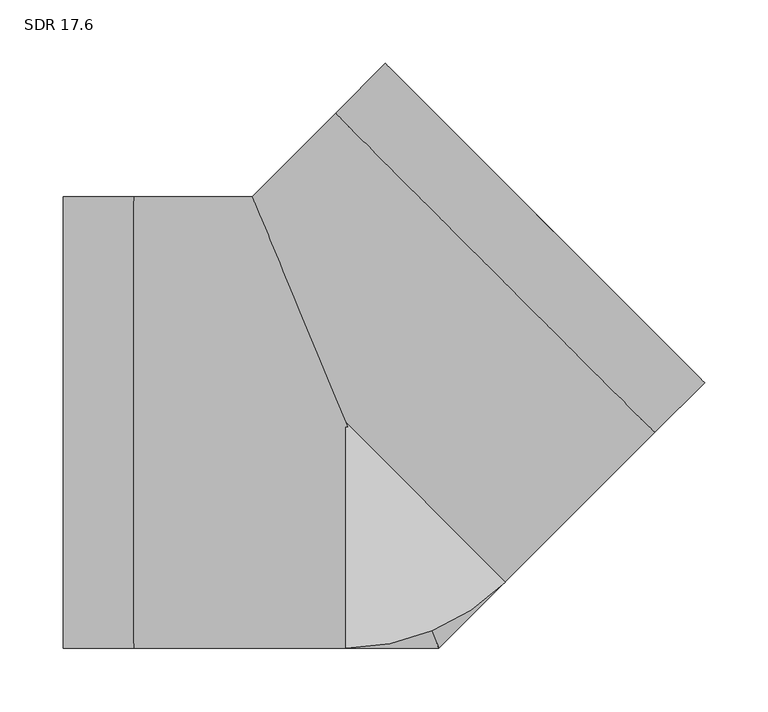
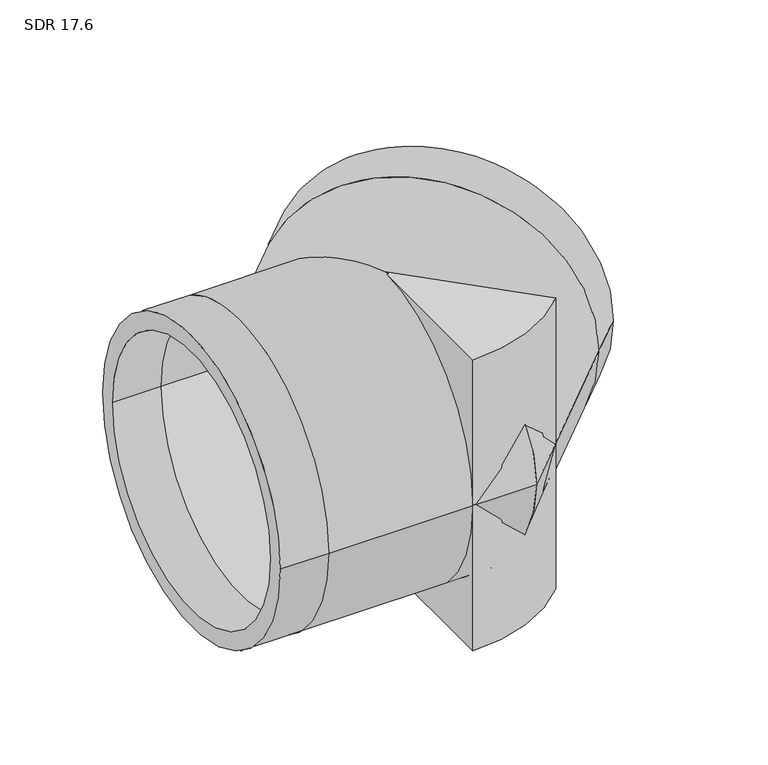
"""IFC4 building model written with IfcOpenShell, lengths in millimetres: pipe fitting geometry, Aquatherm - Elbow Blue BW Segmented : SDR 17.6."""

import ifcopenshell
import ifcopenshell.guid

model = None  # the IFC model being written
_history = None  # IfcOwnerHistory: only IFC2X3 demands one
_inside = {}  # id of a spatial element -> (the spatial element, [elements in it])
_under = {}  # id of a project, library or spatial element -> (it, [spatial elements below it])
_declared = {}  # id of a project -> (the project, [libraries it declares])
_typed = {}  # id of a type object -> (the type object, [elements of that type])
_made_of = {}  # id of a material, layer set ... -> (it, [elements and type objects made of it])


def new_model(schema):
    """Start an empty IFC model of exactly this schema.

    Asked for "IFC4X3", IfcOpenShell would pick the latest addendum, in which some entities
    have other attributes; the version numbers below select the first issue.
    IFC2X3 requires an IfcOwnerHistory on every rooted entity: one is made here for all.
    """
    global model, _history
    if schema == "IFC4X3":
        model = ifcopenshell.file(schema_version=(4, 3, 0, 0))
    else:
        model = ifcopenshell.file(schema=schema)
    _inside.clear()
    _under.clear()
    _declared.clear()
    _typed.clear()
    _made_of.clear()
    _history = None
    if model.schema == "IFC2X3":
        org = make("IfcOrganization", Name="unknown")
        user = make(
            "IfcPersonAndOrganization",
            ThePerson=make("IfcPerson", FamilyName="unknown"),
            TheOrganization=org,
        )
        app = make(
            "IfcApplication",
            ApplicationDeveloper=org,
            Version="unknown",
            ApplicationFullName="unknown",
            ApplicationIdentifier="unknown",
        )
        _history = make(
            "IfcOwnerHistory",
            OwningUser=user,
            OwningApplication=app,
            ChangeAction="ADDED",
            CreationDate=0,
        )
    return model


def make(cls, **values):
    """One entity of the class cls with the attributes given. An attribute that is None is left unset."""
    return model.create_entity(
        cls, **{name: value for name, value in values.items() if value is not None}
    )


def rooted(cls, **values):
    """An entity with a GlobalId (a new one), such as an element, a storey or a relation."""
    return make(cls, GlobalId=ifcopenshell.guid.new(), OwnerHistory=_history, **values)


def si_unit(unit_type, name, prefix=None):
    """IfcSIUnit, for example si_unit("LENGTHUNIT", "METRE", prefix="MILLI")."""
    return make("IfcSIUnit", UnitType=unit_type, Prefix=prefix, Name=name)


def assignment(units):
    """IfcUnitAssignment: the units of a project."""
    return None if units is None else make("IfcUnitAssignment", Units=units)


def point(xyz):
    """IfcCartesianPoint."""
    return None if xyz is None else make("IfcCartesianPoint", Coordinates=xyz)


def direction(xyz):
    """IfcDirection."""
    return None if xyz is None else make("IfcDirection", DirectionRatios=xyz)


def frame(location, z_axis=None, x_axis=None):
    """IfcAxis2Placement3D, a coordinate frame: its origin and axes. An axis left out is left unset."""
    return make(
        "IfcAxis2Placement3D",
        Location=point(location),
        Axis=direction(z_axis),
        RefDirection=direction(x_axis),
    )


def frame_2d(location, x_axis=None):
    """IfcAxis2Placement2D, a coordinate frame in the plane: its origin and x axis."""
    return make(
        "IfcAxis2Placement2D", Location=point(location), RefDirection=direction(x_axis)
    )


def origin():
    """The frame at (0, 0, 0) with its axes left unset."""
    return frame((0.0, 0.0, 0.0))


def origin_with_axes():
    """The frame at (0, 0, 0) with the z axis (0, 0, 1) and the x axis (1, 0, 0) written out."""
    return frame((0.0, 0.0, 0.0), z_axis=(0.0, 0.0, 1.0), x_axis=(1.0, 0.0, 0.0))


def origin_2d():
    """The frame at (0, 0) in the plane with its x axis left unset."""
    return frame_2d((0.0, 0.0))


def place(relative_to, where):
    """IfcLocalPlacement: puts the frame where relative to a parent placement (None: the world)."""
    return make(
        "IfcLocalPlacement", PlacementRelTo=relative_to, RelativePlacement=where
    )


def context(
    kind, dimensions, precision=None, world=None, true_north=None, identifier=None
):
    """IfcGeometricRepresentationContext, for example the 3D "Model" context."""
    return make(
        "IfcGeometricRepresentationContext",
        ContextIdentifier=identifier,
        ContextType=kind,
        CoordinateSpaceDimension=dimensions,
        Precision=precision,
        WorldCoordinateSystem=world,
        TrueNorth=true_north,
    )


def project(units=None, contexts=None):
    """IfcProject with its units and contexts."""
    return rooted(
        "IfcProject",
        Name="project",
        RepresentationContexts=contexts,
        UnitsInContext=assignment(units),
    )


def spatial(cls, under=None, at=None, **own):
    """A site, building, storey or space (cls), placed at a placement, below another one or the project."""
    s = rooted(cls, ObjectPlacement=at, **own)
    if under is not None:
        _under.setdefault(under.id(), (under, []))[1].append(s)
    return s


def polyline(points):
    """IfcPolyline through the points."""
    return make("IfcPolyline", Points=[point(p) for p in points])


def circle_curve(where, radius):
    """IfcCircle in the frame where."""
    return make("IfcCircle", Position=where, Radius=radius)


def ellipse_curve(where, semi_axis1, semi_axis2):
    """IfcEllipse in the frame where."""
    return make(
        "IfcEllipse", Position=where, SemiAxis1=semi_axis1, SemiAxis2=semi_axis2
    )


def trimmed(basis, trim1, trim2, sense, master):
    """IfcTrimmedCurve: the piece of a basis curve between two trims."""
    return make(
        "IfcTrimmedCurve",
        BasisCurve=basis,
        Trim1=trim1,
        Trim2=trim2,
        SenseAgreement=sense,
        MasterRepresentation=master,
    )


def segment(curve, same_sense, transition):
    """IfcCompositeCurveSegment."""
    return make(
        "IfcCompositeCurveSegment",
        Transition=transition,
        SameSense=same_sense,
        ParentCurve=curve,
    )


def composite_curve(segments, self_intersect=None):
    """IfcCompositeCurve: segments joined end to end."""
    return make("IfcCompositeCurve", Segments=segments, SelfIntersect=self_intersect)


def outline(outer, holes=None, kind="AREA"):
    """IfcArbitraryClosedProfileDef: a profile drawn as a closed curve; with holes, ...WithVoids."""
    if holes is None:
        return make("IfcArbitraryClosedProfileDef", ProfileType=kind, OuterCurve=outer)
    return make(
        "IfcArbitraryProfileDefWithVoids",
        ProfileType=kind,
        OuterCurve=outer,
        InnerCurves=holes,
    )


def extrude(swept, where, along, depth):
    """IfcExtrudedAreaSolid: the profile swept, set in the frame where, extruded along a direction by depth."""
    return make(
        "IfcExtrudedAreaSolid",
        SweptArea=swept,
        Position=where,
        ExtrudedDirection=direction(along),
        Depth=depth,
    )


def shape(context_of_items, identifier, shape_type, items):
    """IfcShapeRepresentation: the items that make up one representation, for example the "Body"."""
    return make(
        "IfcShapeRepresentation",
        ContextOfItems=context_of_items,
        RepresentationIdentifier=identifier,
        RepresentationType=shape_type,
        Items=items,
    )


def source(mapping_origin, context_of_items, identifier, shape_type, items):
    """IfcRepresentationMap: a shape defined once, which mapped items show again and again."""
    return make(
        "IfcRepresentationMap",
        MappingOrigin=mapping_origin,
        MappedRepresentation=shape(context_of_items, identifier, shape_type, items),
    )


def transform(
    local_origin,
    x_axis=None,
    y_axis=None,
    z_axis=None,
    scale=None,
    scale2=None,
    scale3=None,
    uniform=True,
):
    """IfcCartesianTransformationOperator3D, or its non-uniform kind. x_axis, y_axis, z_axis: its Axis1, 2, 3."""
    if uniform:
        return make(
            "IfcCartesianTransformationOperator3D",
            Axis1=direction(x_axis),
            Axis2=direction(y_axis),
            LocalOrigin=point(local_origin),
            Scale=scale,
            Axis3=direction(z_axis),
        )
    return make(
        "IfcCartesianTransformationOperator3DnonUniform",
        Axis1=direction(x_axis),
        Axis2=direction(y_axis),
        LocalOrigin=point(local_origin),
        Scale=scale,
        Axis3=direction(z_axis),
        Scale2=scale2,
        Scale3=scale3,
    )


def mapped(mapping_source, mapping_target):
    """IfcMappedItem: shows the shape of a source again, moved by a transform."""
    return make(
        "IfcMappedItem", MappingSource=mapping_source, MappingTarget=mapping_target
    )


def made_of(thing, what):
    """Note that an element or type object is made of a material, layer set ...; save() writes the relation."""
    if what is not None:
        _made_of.setdefault(what.id(), (what, []))[1].append(thing)
    return thing


def element(
    cls,
    number,
    at=None,
    inside=None,
    cuts=None,
    type_object=None,
    material=None,
    context=None,
    identifier="Body",
    shape_type=None,
    held_by="IfcProductDefinitionShape",
    body=None,
    shapes=None,
    **own,
):
    """One element of the class cls, such as IfcWall. Its Tag is "e" and its number.

    at: its placement. inside: the storey or other place that contains it. cuts: it is an
    opening in that element (IfcRelVoidsElement). A single representation is given by context,
    identifier, shape_type and body (its items); several are given by shapes. held_by: the class
    of the entity that holds the representations. save() writes the other relations.
    """
    e = rooted(cls, Tag="e%d" % number, ObjectPlacement=at, **own)
    if body is not None:
        shapes = [shape(context, identifier, shape_type, body)]
    if shapes is not None:
        e.Representation = make(held_by, Representations=shapes)
    if inside is not None:
        _inside.setdefault(inside.id(), (inside, []))[1].append(e)
    if cuts is not None:
        rooted(
            "IfcRelVoidsElement", RelatingBuildingElement=cuts, RelatedOpeningElement=e
        )
    if type_object is not None:
        _typed.setdefault(type_object.id(), (type_object, []))[1].append(e)
    return made_of(e, material)


def aggregate(whole, parts):
    """IfcRelAggregates: a whole, such as a stair, and the parts it consists of."""
    return rooted("IfcRelAggregates", RelatingObject=whole, RelatedObjects=parts)


def save(model, path):
    """Write the relations noted so far, then the file.

    IfcRelAggregates (storeys below a building ...), IfcRelContainedInSpatialStructure (elements
    in a storey), IfcRelDefinesByType, IfcRelAssociatesMaterial and IfcRelDeclares: one each for
    every whole, place, type object, material and project.
    """
    for whole, parts in _under.values():
        aggregate(whole, parts)
    for where, things in _inside.values():
        rooted(
            "IfcRelContainedInSpatialStructure",
            RelatedElements=things,
            RelatingStructure=where,
        )
    for kind, things in _typed.values():
        rooted("IfcRelDefinesByType", RelatedObjects=things, RelatingType=kind)
    for what, things in _made_of.values():
        rooted("IfcRelAssociatesMaterial", RelatedObjects=things, RelatingMaterial=what)
    for by, libraries in _declared.values():
        rooted("IfcRelDeclares", RelatingContext=by, RelatedDefinitions=libraries)
    model.write(path)


def plane_surface(at):
    """IfcPlane: the flat surface through the origin of the frame at, square to its z axis."""
    return make("IfcPlane", Position=at)


def cylinder_surface(at, radius):
    """IfcCylindricalSurface: all points at the distance radius from the z axis of the frame at."""
    return make("IfcCylindricalSurface", Position=at, Radius=radius)


def revolved_surface(curve, axis_point, axis_direction):
    """IfcSurfaceOfRevolution: the curve turned about the line through axis_point along axis_direction."""
    return make(
        "IfcSurfaceOfRevolution",
        SweptCurve=make("IfcArbitraryOpenProfileDef", ProfileType="CURVE", Curve=curve),
        AxisPosition=make("IfcAxis1Placement", Location=point(axis_point), Axis=direction(axis_direction)),
    )


def advanced_brep(points, edges, surfaces, faces):
    """IfcAdvancedBrep: a solid bounded by faces that lie on surfaces and meet in shared edges.

    An edge is (start, end): straight between two places in points (the first is 0);
    or (start, end, curve); or (start, end, curve, False) where it runs against its curve.
    A face is (place in surfaces, loops), or (place, loops, False) where it looks against
    its surface's normal. A loop lists edges by number (the first is 1), with a minus sign
    where the edge is run from its end to its start. The first loop is the outer one.
    """
    corners = [point(p) for p in points]
    vertices = [make("IfcVertexPoint", VertexGeometry=c) for c in corners]
    made = []
    for start, end, *more in edges:
        made.append(
            make(
                "IfcEdgeCurve",
                EdgeStart=vertices[start],
                EdgeEnd=vertices[end],
                EdgeGeometry=more[0] if more else make("IfcPolyline", Points=[corners[start], corners[end]]),
                SameSense=more[1] if len(more) > 1 else True,
            )
        )
    hull = []
    for where, loops, *sense in faces:
        bounds = []
        for j, loop in enumerate(loops):
            ring = [make("IfcOrientedEdge", EdgeElement=made[abs(k) - 1], Orientation=k > 0) for k in loop]
            bounds.append(
                make(
                    "IfcFaceOuterBound" if j == 0 else "IfcFaceBound",
                    Bound=make("IfcEdgeLoop", EdgeList=ring),
                    Orientation=True,
                )
            )
        hull.append(make("IfcAdvancedFace", Bounds=bounds, FaceSurface=surfaces[where], SameSense=sense[0] if sense else True))
    return make("IfcAdvancedBrep", Outer=make("IfcClosedShell", CfsFaces=hull))


def sdr_17_6_faee2585(model_context):
    return source(origin(), model_context, "Body", "SolidModel", [
        extrude(outline(composite_curve([segment(polyline([(0.0, -177.8), (0.0, 0.0), (125.7235857, -125.7235857)]), True, "CONTINUOUS"), segment(trimmed(circle_curve(origin_2d(), 177.8), [point((125.7235857, -125.7235857))], [point((0.0, -177.8))], False, "CARTESIAN"), True, "CONTINUOUS")], self_intersect=False)), frame((0.0, 0.0, -177.8), z_axis=(0.0, 0.0, 1.0), x_axis=(1.0, 0.0, 0.0)), (0.0, 0.0, 1.0), 177.8),
        extrude(outline(composite_curve([segment(trimmed(circle_curve(origin_2d(), 177.8), [point((125.7235857, -125.7235857))], [point((0.0, -177.8))], False, "CARTESIAN"), True, "CONTINUOUS"), segment(polyline([(0.0, -177.8), (0.0, 0.0), (125.7235857, -125.7235857)]), True, "CONTINUOUS")], self_intersect=False)), origin_with_axes(), (0.0, 0.0, 1.0), 177.8),
        advanced_brep(
        [(-222.25, -177.8, 0.0), (-222.25, 177.8, 0.0), (-222.25, -157.5972481, 0.0), (-222.25, 157.5972481, 0.0), (282.8780678, 31.4308964, 0.0), (31.4308964, 282.8780678, 0.0), (268.592565, 45.7163993, 0.0), (45.7163993, 268.592565, 0.0), (-166.6875, -177.8, 0.0), (-166.6875, 177.8, 0.0), (-166.6875, -157.5972481, 0.0), (-166.6875, 157.5972481, 0.0), (73.6471714, -177.8, 0.0), (-73.6471714, 177.8, 0.0), (65.2789176, -157.5972481, 0.0), (-65.2789176, 157.5972481, 0.0), (243.5894473, -7.8577241, 0.0), (-7.8577241, 243.5894473, 0.0), (229.3039444, 6.4277788, 0.0), (6.4277788, 229.3039444, 0.0)],
        [
            (0, 1, circle_curve(frame((-222.25, 0.0, 0.0), z_axis=(-1.0, 0.0, 0.0), x_axis=(0.0, 1.0, 0.0)), 177.8)),
            (1, 0, circle_curve(frame((-222.25, 0.0, 0.0), z_axis=(-1.0, 0.0, 0.0), x_axis=(0.0, 1.0, 0.0)), 177.8)),
            (2, 3, circle_curve(frame((-222.25, 0.0, 0.0), z_axis=(1.0, 0.0, 0.0), x_axis=(0.0, 1.0, 0.0)), 157.5972481)),
            (3, 2, circle_curve(frame((-222.25, 0.0, 0.0), z_axis=(1.0, 0.0, 0.0), x_axis=(0.0, 1.0, 0.0)), 157.5972481)),
            (4, 5, circle_curve(frame((157.1544821, 157.1544821, 0.0), z_axis=(0.7071067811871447, 0.7071067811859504, 0.0), x_axis=(-0.7071067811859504, 0.7071067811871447, 0.0)), 177.8)),
            (5, 4, circle_curve(frame((157.1544821, 157.1544821, 0.0), z_axis=(0.7071067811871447, 0.7071067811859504, 0.0), x_axis=(-0.7071067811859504, 0.7071067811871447, 0.0)), 177.8)),
            (6, 7, circle_curve(frame((157.1544821, 157.1544821, 0.0), z_axis=(-0.7071067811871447, -0.7071067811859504, 0.0), x_axis=(-0.7071067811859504, 0.7071067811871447, 0.0)), 157.5972481)),
            (7, 6, circle_curve(frame((157.1544821, 157.1544821, 0.0), z_axis=(-0.7071067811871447, -0.7071067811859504, 0.0), x_axis=(-0.7071067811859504, 0.7071067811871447, 0.0)), 157.5972481)),
            (0, 8),
            (8, 9, circle_curve(frame((-166.6875, 0.0, 0.0), z_axis=(-1.0, 0.0, 0.0), x_axis=(0.0, 1.0, 0.0)), 177.8)),
            (9, 1),
            (9, 8, circle_curve(frame((-166.6875, 0.0, 0.0), z_axis=(-1.0, 0.0, 0.0), x_axis=(0.0, 1.0, 0.0)), 177.8)),
            (2, 10),
            (10, 11, circle_curve(frame((-166.6875, 0.0, 0.0), z_axis=(1.0, 0.0, 0.0), x_axis=(0.0, 1.0, 0.0)), 157.5972481)),
            (11, 3),
            (11, 10, circle_curve(frame((-166.6875, 0.0, 0.0), z_axis=(1.0, 0.0, 0.0), x_axis=(0.0, 1.0, 0.0)), 157.5972481)),
            (8, 12),
            (12, 13, ellipse_curve(frame((0.0, 0.0, 0.0), z_axis=(-0.9238795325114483, -0.38268343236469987, 0.0), x_axis=(-0.3826834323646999, 0.9238795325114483, 0.0)), 192.4493332, 177.8)),
            (13, 9),
            (13, 12, ellipse_curve(frame((0.0, 0.0, 0.0), z_axis=(-0.9238795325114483, -0.38268343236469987, 0.0), x_axis=(-0.3826834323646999, 0.9238795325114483, 0.0)), 192.4493332, 177.8)),
            (10, 14),
            (14, 15, ellipse_curve(frame((0.0, 0.0, 0.0), z_axis=(0.9238795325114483, 0.38268343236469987, 0.0), x_axis=(0.3826834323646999, -0.9238795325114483, 0.0)), 170.5820321, 157.5972481)),
            (15, 11),
            (15, 14, ellipse_curve(frame((0.0, 0.0, 0.0), z_axis=(0.9238795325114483, 0.38268343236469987, 0.0), x_axis=(0.3826834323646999, -0.9238795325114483, 0.0)), 170.5820321, 157.5972481)),
            (12, 16),
            (16, 17, circle_curve(frame((117.8658616, 117.8658616, 0.0), z_axis=(-0.7071067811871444, -0.7071067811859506, 0.0), x_axis=(-0.7071067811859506, 0.7071067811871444, 0.0)), 177.8)),
            (17, 13),
            (17, 16, circle_curve(frame((117.8658616, 117.8658616, 0.0), z_axis=(-0.7071067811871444, -0.7071067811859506, 0.0), x_axis=(-0.7071067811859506, 0.7071067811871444, 0.0)), 177.8)),
            (14, 18),
            (18, 19, circle_curve(frame((117.8658616, 117.8658616, 0.0), z_axis=(0.7071067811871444, 0.7071067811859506, 0.0), x_axis=(-0.7071067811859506, 0.7071067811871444, 0.0)), 157.5972481)),
            (19, 15),
            (19, 18, circle_curve(frame((117.8658616, 117.8658616, 0.0), z_axis=(0.7071067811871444, 0.7071067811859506, 0.0), x_axis=(-0.7071067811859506, 0.7071067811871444, 0.0)), 157.5972481)),
            (16, 4),
            (5, 17),
            (18, 6),
            (7, 19),
        ],
        [
            plane_surface(frame((-222.25, 0.0, 0.0), z_axis=(-1.0, 0.0, 0.0), x_axis=(0.0, 0.0, 1.0))),
            plane_surface(frame((157.1544821, 157.1544821, 0.0), z_axis=(0.7071067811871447, 0.7071067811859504, 0.0), x_axis=(0.0, 0.0, 1.0))),
            cylinder_surface(frame((-222.25, 0.0, 0.0), z_axis=(-1.0, 0.0, 0.0), x_axis=(0.0, 1.0, 0.0)), 177.8),
            revolved_surface(polyline([(-166.6875, 157.5972481, 0.0), (-222.25, 157.5972481, 0.0)]), (-222.25, 0.0, 0.0), (1.0, 0.0, 0.0)),
            cylinder_surface(frame((-166.6875, 0.0, 0.0), z_axis=(-1.0, 0.0, 0.0), x_axis=(0.0, 1.0, 0.0)), 177.8),
            revolved_surface(polyline([(65.2789176, 157.5972481, 0.0), (-166.6875, 157.5972481, 0.0)]), (-166.6875, 0.0, 0.0), (1.0, 0.0, 0.0)),
            cylinder_surface(frame((0.0, 0.0, 0.0), z_axis=(-0.7071067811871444, -0.7071067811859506, 0.0), x_axis=(-0.7071067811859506, 0.7071067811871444, 0.0)), 177.8),
            revolved_surface(polyline([(6.427778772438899, 229.30394442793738, 0.0), (-157.59724809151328, 65.27891756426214, 0.0)]), (0.0, 0.0, 0.0), (0.7071067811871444, 0.7071067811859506, 0.0)),
            cylinder_surface(frame((117.8658616, 117.8658616, 0.0), z_axis=(-0.7071067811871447, -0.7071067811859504, 0.0), x_axis=(-0.7071067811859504, 0.7071067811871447, 0.0)), 177.8),
            revolved_surface(polyline([(45.716399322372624, 268.59256497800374, 0.0), (6.427778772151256, 229.30394442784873, 0.0)]), (117.8658616, 117.8658616, 0.0), (0.7071067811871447, 0.7071067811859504, 0.0)),
        ],
        [
            (0, [[1, 2], [3, 4]]),
            (1, [[5, 6], [7, 8]]),
            (2, [[-1, 9, 10, 11]]),
            (2, [[-2, -11, 12, -9]]),
            (3, [[-3, 13, 14, 15]]),
            (3, [[-4, -15, 16, -13]]),
            (4, [[-10, 17, 18, 19]]),
            (4, [[-12, -19, 20, -17]]),
            (5, [[-14, 21, 22, 23]]),
            (5, [[-16, -23, 24, -21]]),
            (6, [[-18, 25, 26, 27]]),
            (6, [[-20, -27, 28, -25]]),
            (7, [[-22, 29, 30, 31]]),
            (7, [[-24, -31, 32, -29]]),
            (8, [[-26, 33, -6, 34]]),
            (8, [[-28, -34, -5, -33]]),
            (9, [[-30, 35, -8, 36]]),
            (9, [[-32, -36, -7, -35]]),
        ],
    ),
    ])


if __name__ == "__main__":
    model = new_model("IFC4")
    model_context = context("Model", 3, world=origin())
    ifc_project = project(units=[si_unit("LENGTHUNIT", "METRE", prefix="MILLI")], contexts=[model_context])
    site = spatial("IfcSite", under=ifc_project)
    building = spatial("IfcBuilding", under=site)
    placement = place(None, origin())
    sdr_17_6_shape = sdr_17_6_faee2585(model_context)
    element("IfcPipeFitting", 1, ObjectType="Aquatherm - Elbow Blue BW Segmented : SDR 17.6", at=placement, inside=building, context=model_context, shape_type="MappedRepresentation", body=[
        mapped(sdr_17_6_shape, transform((0.0, 0.0, 0.0), x_axis=(1.0, 0.0, 0.0), y_axis=(0.0, 1.0, 0.0), z_axis=(0.0, 0.0, 1.0))),
    ])
    save(model, "model.ifc")
